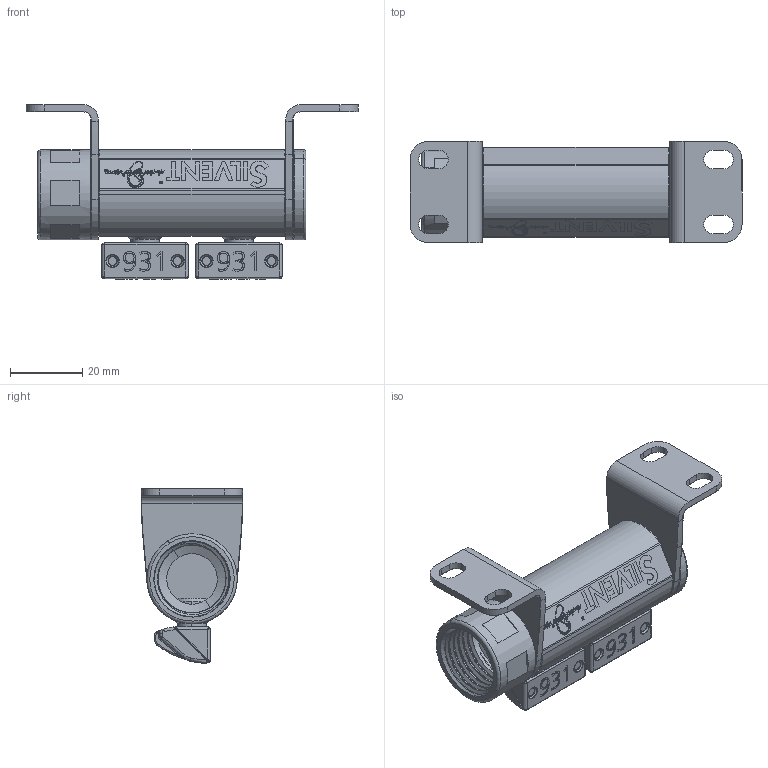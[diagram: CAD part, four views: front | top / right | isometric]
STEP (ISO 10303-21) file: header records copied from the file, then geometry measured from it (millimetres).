
FILE_DESCRIPTION (( 'STEP AP203' ), '1' );
FILE_NAME ('Silvent 332.STEP', '2019-09-09T08:12:58', ( '' ), ( '' ), 'SwSTEP 2.0', 'SolidWorks 2016', '' );
FILE_SCHEMA (( 'CONFIG_CONTROL_DESIGN' ));
Length unit declared in the file: millimetre
Products named in the file (1): Silvent 332
Bounding box: 92 x 28 x 48.39 mm (x, y, z)
Volume: 25186.9 mm3; surface area: 24665.6 mm2
Topology: 9 solids, 9 shells, 1205 faces, 3551 edges, 2389 vertices
Faces by surface type: bspline 388, cylinder 307, plane 282, torus 180, cone 48
Entity records: 67442 total; most frequent: CARTESIAN_POINT 38986, ORIENTED_EDGE 7042, DIRECTION 4328, EDGE_CURVE 3521, VERTEX_POINT 2389, AXIS2_PLACEMENT_3D 1547, B_SPLINE_CURVE_WITH_KNOTS 1530, EDGE_LOOP 1280
